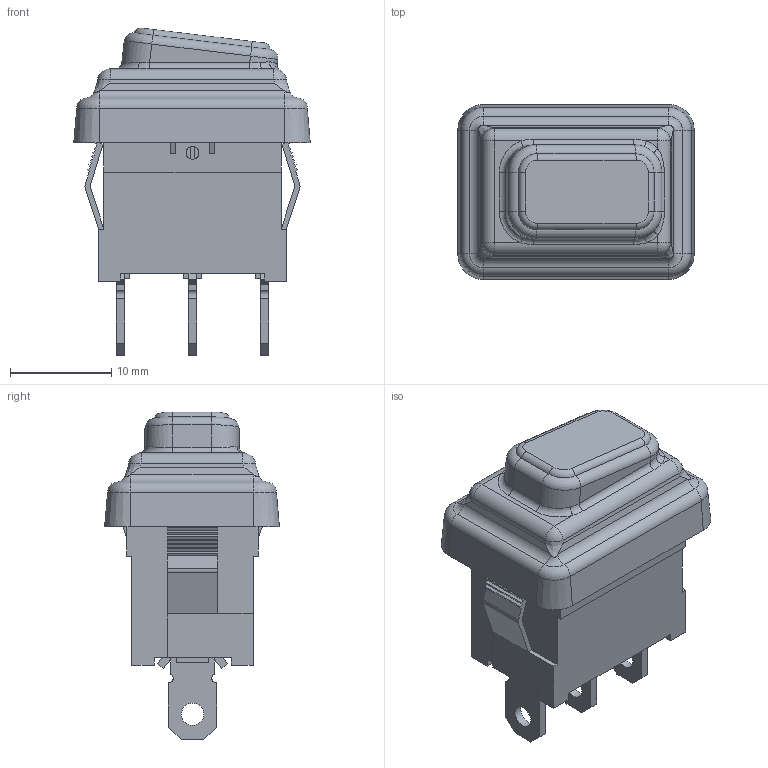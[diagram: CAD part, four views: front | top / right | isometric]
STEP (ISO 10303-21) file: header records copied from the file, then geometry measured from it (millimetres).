
FILE_DESCRIPTION(/* description */ (''),/* implementation_level */ '2;1');
FILE_NAME(/* name */ 'C:\Users\Hani\Desktop\work\RF3-1A-DC-2-RL\RF3-1A-DC-2-RL.stp',/* time_stamp */ '2022-07-04T09:47:58-07:00',/* author */ ('Hani'),/* organization */ (''),/* preprocessor_version */ 'ST-DEVELOPER v17',/* originating_system */ 'Autodesk Inventor 2019',/* authorisation */ '');
FILE_SCHEMA (('AUTOMOTIVE_DESIGN { 1 0 10303 214 3 1 1 }'));
Length unit declared in the file: inch
Products named in the file (6): SRB1-2G-DC-1-NN Rocker Switch; ROCKER SWITCH; botton; .187 terminal; pin; COVER
Assembly tree (7 placements, depth 2):
  SRB1-2G-DC-1-NN Rocker Switch
    ROCKER SWITCH
    botton
    .187 terminal  x3
    pin
    COVER
Bounding box: 23.37 x 17.27 x 32.39 mm (x, y, z)
Volume: 5351.4 mm3; surface area: 4655.4 mm2
Topology: 7 solids, 7 shells, 374 faces, 945 edges, 590 vertices
Faces by surface type: plane 238, cylinder 76, bspline 24, torus 20, sphere 8, cone 8
Full cylindrical faces by diameter (mm): 1.27 x2, 2.21 x3
Entity records: 10582 total; most frequent: CARTESIAN_POINT 2346, ORIENTED_EDGE 1678, DIRECTION 1639, EDGE_CURVE 839, LINE 601, VECTOR 601, VERTEX_POINT 522, AXIS2_PLACEMENT_3D 519
